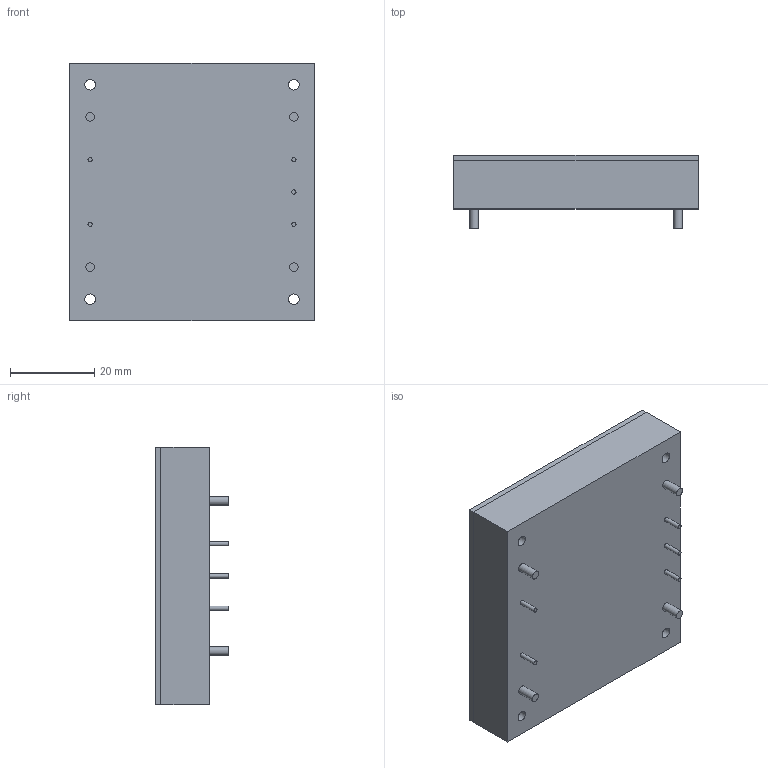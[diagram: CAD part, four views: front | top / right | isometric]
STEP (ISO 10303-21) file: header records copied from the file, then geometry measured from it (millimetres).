
FILE_DESCRIPTION(('FreeCAD Model'),'2;1');
FILE_NAME('Open CASCADE Shape Model','2025-11-25T16:14:07',(''),(''), 'Open CASCADE STEP processor 7.8','FreeCAD','Unknown');
FILE_SCHEMA(('AUTOMOTIVE_DESIGN { 1 0 10303 214 1 1 1 1 }'));
Length unit declared in the file: millimetre
Products named in the file (3): deneme; Bottom; Body
Assembly tree (2 placements, depth 2):
  deneme
    Bottom
    Body
Bounding box: 57.9 x 17.3 x 61 mm (x, y, z)
Volume: 44570.2 mm3; surface area: 17820.8 mm2
Topology: 2 solids, 2 shells, 287 faces, 856 edges, 582 vertices
Faces by surface type: extrusion 153, plane 117, cylinder 17
Full cylindrical faces by diameter (mm): 1.02 x5, 2.03 x4, 2.5 x8
Entity records: 12319 total; most frequent: CARTESIAN_POINT 4989, ORIENTED_EDGE 1712, DIRECTION 1028, EDGE_CURVE 856, VECTOR 618, VERTEX_POINT 582, B_SPLINE_CURVE_WITH_KNOTS 475, LINE 465
